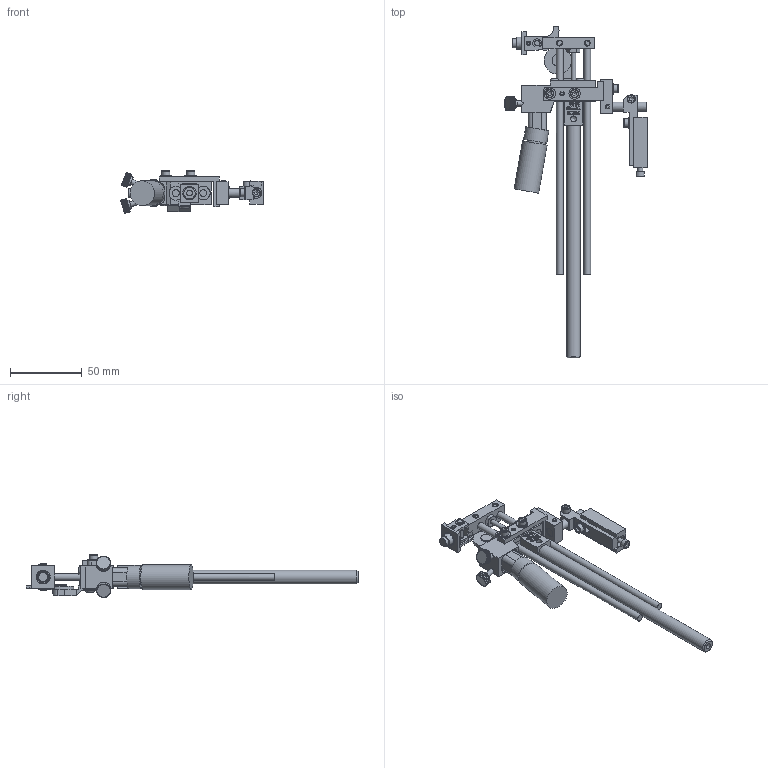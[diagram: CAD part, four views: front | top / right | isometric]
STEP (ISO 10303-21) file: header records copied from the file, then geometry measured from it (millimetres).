
FILE_DESCRIPTION((''),'2;1');
FILE_NAME('C:\Documents and Settings\Ron\My Documents\Inventor\Sprinter Drawing\Machines in Inventor\Model 22\Dot\1-fourth\Ext Str\E4\Brkt\90\Model 22 ES 4 1-4 dot 90 deg w brkt.stp','2009-01-23T13:39:35',('Ron'),(''),'Autodesk Inventor 2008','Autodesk Inventor 2008','');
FILE_SCHEMA(('AUTOMOTIVE_DESIGN { 1 0 10303 214 1 1 1 1 }'));
Length unit declared in the file: inch
Products named in the file (1): Model 22 ES 4 1-4 dot 90 deg w brkt
Bounding box: 99.18 x 230.8 x 29.78 mm (x, y, z)
Volume: 67567.6 mm3; surface area: 39817.4 mm2
Topology: 34 solids, 34 shells, 4740 faces, 13135 edges, 8726 vertices
Faces by surface type: plane 2898, bspline 1288, cylinder 484, cone 56, torus 14
Full cylindrical faces by diameter (mm): 2.845 x3, 2.946 x2, 3.175 x4, 3.505 x7, 3.556 x2, 3.658 x2, 3.876 x1, 3.962 x9, 4.064 x1, 4.166 x3, 4.648 x2, 4.699 x1, 4.75 x1, 4.763 x2, 4.775 x1, 4.788 x1, 5.41 x2, 5.74 x6, 6.096 x1, 6.325 x2, 6.35 x4, 6.477 x1, 6.655 x1, 7.925 x4, 7.938 x1, 8.128 x1, 8.334 x1, 9.462 x1, 9.525 x1, 10.922 x1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
Entity records: 165859 total; most frequent: CARTESIAN_POINT 49133, ORIENTED_EDGE 25740, DIRECTION 18451, EDGE_CURVE 12870, VECTOR 9053, LINE 9053, VERTEX_POINT 8639, EDGE_LOOP 5265
